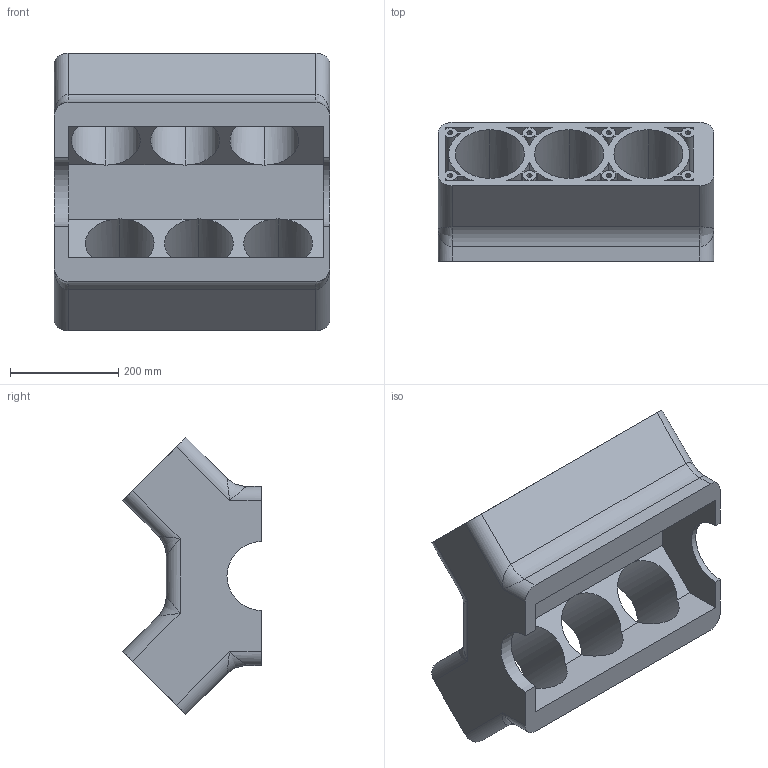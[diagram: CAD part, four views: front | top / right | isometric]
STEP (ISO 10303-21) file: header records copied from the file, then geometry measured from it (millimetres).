
FILE_DESCRIPTION (( 'STEP AP203' ), '1' );
FILE_NAME ('Engine block.STEP', '2019-06-19T15:17:50', ( '' ), ( '' ), 'SwSTEP 2.0', 'SolidWorks 2018', '' );
FILE_SCHEMA (( 'CONFIG_CONTROL_DESIGN' ));
Length unit declared in the file: millimetre
Products named in the file (1): Engine block
Bounding box: 508 x 255.94 x 511.87 mm (x, y, z)
Volume: 16122339.7 mm3; surface area: 1731150.7 mm2
Topology: 1 solids, 1 shells, 346 faces, 878 edges, 572 vertices
Faces by surface type: plane 178, cylinder 160, bspline 8
Entity records: 10899 total; most frequent: CARTESIAN_POINT 2333, DIRECTION 1812, ORIENTED_EDGE 1740, EDGE_CURVE 870, AXIS2_PLACEMENT_3D 643, VERTEX_POINT 572, LINE 526, VECTOR 526
